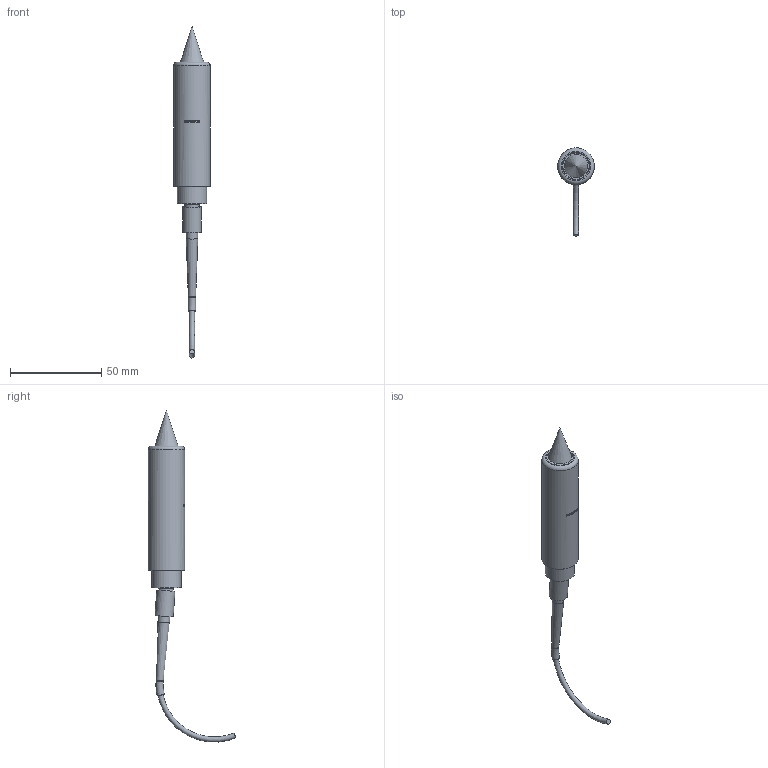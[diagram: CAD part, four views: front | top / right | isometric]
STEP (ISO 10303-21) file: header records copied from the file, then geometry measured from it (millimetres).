
FILE_DESCRIPTION (( 'STEP AP214' ), '1' );
FILE_NAME ('2602046 IFS2406-2,5_VAC vereinfacht für Kunden.STEP', '2015-05-04T07:03:48', ( 'MICRO-EPSILON Optronic GmbH' ), ( 'MICRO-EPSILON Optronic GmbH' ), 'SwSTEP 2.0', 'SolidWorks 2015', '' );
FILE_SCHEMA (( 'AUTOMOTIVE_DESIGN' ));
Length unit declared in the file: millimetre
Products named in the file (1): 2602046 IFS2406-2,5_VAC vereinfacht f黵 Kunden
Bounding box: 20 x 48.01 x 181.62 mm (x, y, z)
Volume: 25766.5 mm3; surface area: 7833 mm2
Topology: 2 solids, 3 shells, 169 faces, 403 edges, 271 vertices
Faces by surface type: bspline 91, plane 36, cylinder 29, cone 10, torus 3
Full cylindrical faces by diameter (mm): 0.05 x1, 1.6 x2, 6.4 x1, 7.5 x1, 8 x1, 9.5 x1, 10 x1, 14.4 x1, 16 x1, 20 x1
Entity records: 17294 total; most frequent: CARTESIAN_POINT 12285, ORIENTED_EDGE 736, DIRECTION 403, EDGE_CURVE 368, VERTEX_POINT 257, EDGE_LOOP 221, FACE_OUTER_BOUND 184, B_SPLINE_CURVE_WITH_KNOTS 182
